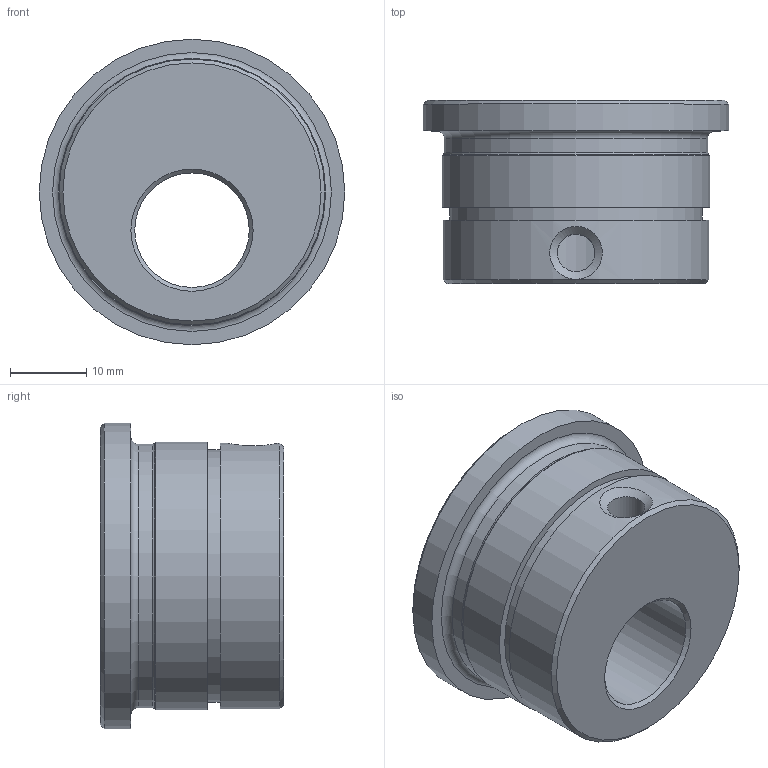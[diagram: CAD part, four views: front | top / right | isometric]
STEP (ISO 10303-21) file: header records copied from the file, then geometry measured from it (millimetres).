
FILE_DESCRIPTION(('STEP AP203'), '1');
FILE_NAME('眐珆1801.01.08.01.105 - 椻壚樇襝鴀', '', ('UNSPECIFIED'), ('UNSPECIFIED'), 'C3D Converter', 'C3D Toolkit', '');
FILE_SCHEMA(('CONFIG_CONTROL_DESIGN'));
Length unit declared in the file: millimetre
Products named in the file (1): ТППФ1801.01.08.01.105
Bounding box: 40 x 24 x 40 mm (x, y, z)
Volume: 19361 mm3; surface area: 6242.5 mm2
Topology: 1 solids, 1 shells, 20 faces, 36 edges, 21 vertices
Faces by surface type: cylinder 7, plane 5, cone 5, torus 2, bspline 1
Full cylindrical faces by diameter (mm): 4.917 x1, 15 x1, 33 x1, 34.5 x1, 34.8 x1, 35 x1, 40 x1
Entity records: 959 total; most frequent: CARTESIAN_POINT 414, DIRECTION 76, EDGE_LOOP 42, ORIENTED_EDGE 42, AXIS2_PLACEMENT_3D 38, FACE_OUTER_BOUND 30, COLOUR_RGB 21, FILL_AREA_STYLE_COLOUR 21
